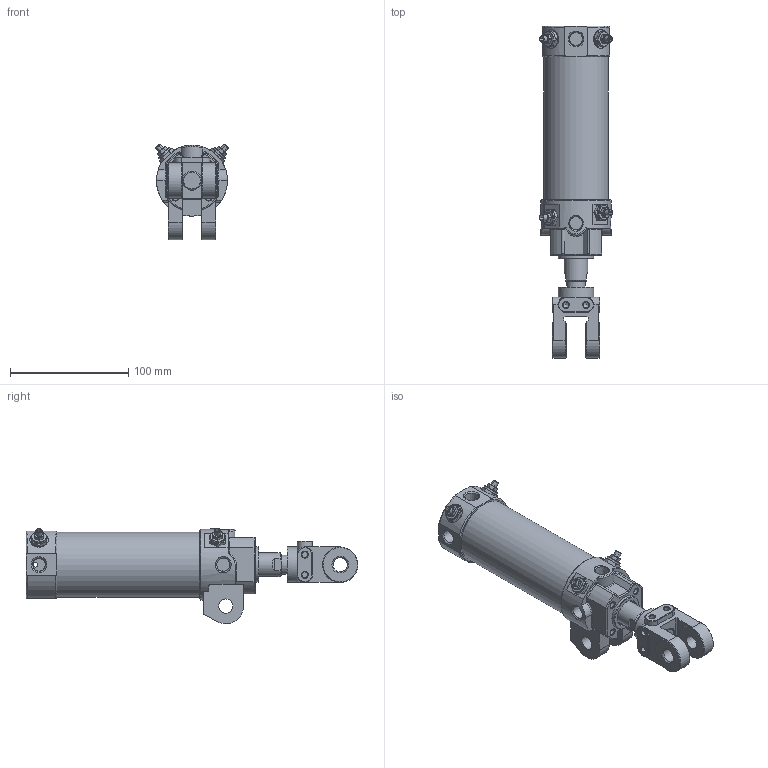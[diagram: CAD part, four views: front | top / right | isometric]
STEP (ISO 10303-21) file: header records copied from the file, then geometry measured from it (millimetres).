
FILE_DESCRIPTION((''),'2;1');
FILE_NAME('I:\3D電子目錄\氣缸\DCK\DCK\DCK-1A-50x75-Y.stp','2008-02-26T14:35:23',('Administrator'),(''),'Autodesk Inventor 11','Autodesk Inventor 11','');
FILE_SCHEMA(('AUTOMOTIVE_DESIGN { 1 0 10303 214 1 1 1 1 }'));
Length unit declared in the file: millimetre
Products named in the file (6): DCK-1A-50-Y; 緩衝針; 緩衝針-1; 緩衝針-201; 緩衝針-3
Assembly tree (8 placements, depth 3):
  DCK-1A-50-Y
    DCK-1A-50-Y
    緩衝針  x4
      緩衝針-1
      緩衝針-201
      緩衝針-3
Bounding box: 61.76 x 281 x 80.87 mm (x, y, z)
Volume: 278258.5 mm3; surface area: 112405.6 mm2
Topology: 15 solids, 15 shells, 649 faces, 1461 edges, 910 vertices
Faces by surface type: plane 240, cylinder 188, cone 145, bspline 40, torus 36
Full cylindrical faces by diameter (mm): 2 x2, 3 x4, 3.8 x2, 4 x6, 4.6 x4, 4.917 x2, 5 x8, 5.1 x4, 5.2 x12, 5.5 x4, 7.25 x1, 7.9 x4, 8 x2, 10.3 x1, 11.3 x1, 12 x6, 12.8 x4, 16 x3, 20 x1, 21 x1, 22 x2, 23 x1, 24.7 x1, 26 x1, 27 x1, 28 x1, 29 x1, 30 x4, 33 x1, 49.5 x1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
Entity records: 14035 total; most frequent: CARTESIAN_POINT 5596, DIRECTION 1733, ORIENTED_EDGE 1524, EDGE_CURVE 762, AXIS2_PLACEMENT_3D 745, EDGE_LOOP 614, VERTEX_POINT 550, FACE_OUTER_BOUND 400
